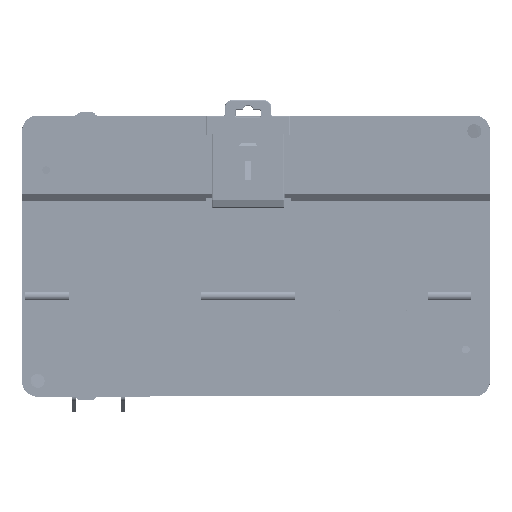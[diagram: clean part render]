
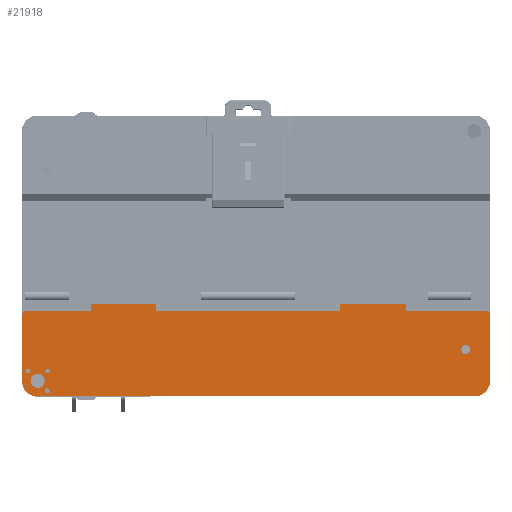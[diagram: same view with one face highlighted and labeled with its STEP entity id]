
A CAD part, front view. The second image highlights one B-rep face of the part: STEP entity #21918.
In plain terms, the highlighted planar face has unit normal (0, -1, 0).
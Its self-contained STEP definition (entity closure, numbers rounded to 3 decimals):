
#1597=DIRECTION('',(0.,0.,1.));
#1598=VECTOR('',#1597,21.25);
#1599=CARTESIAN_POINT('',(77.5,0.,-40.));
#1600=LINE('',#1599,#1598);
#1789=DIRECTION('',(-1.,0.,0.));
#1790=VECTOR('',#1789,26.);
#1791=CARTESIAN_POINT('',(76.5,0.,-17.75));
#1792=LINE('',#1791,#1790);
#1801=DIRECTION('',(-1.,0.,0.));
#1802=VECTOR('',#1801,59.);
#1803=CARTESIAN_POINT('',(29.5,0.,-17.75));
#1804=LINE('',#1803,#1802);
#1809=DIRECTION('',(-1.,0.,0.));
#1810=VECTOR('',#1809,21.);
#1811=CARTESIAN_POINT('',(-50.5,0.,-17.75));
#1812=LINE('',#1811,#1810);
#1837=CARTESIAN_POINT('',(50.,0.,-15.75));
#1838=DIRECTION('',(0.,1.,0.));
#1839=DIRECTION('',(0.,0.,1.));
#1840=AXIS2_PLACEMENT_3D('',#1837,#1838,#1839);
#1842=CARTESIAN_POINT('',(76.5,0.,-18.75));
#1843=DIRECTION('',(0.,1.,0.));
#1844=DIRECTION('',(0.,0.,1.));
#1845=AXIS2_PLACEMENT_3D('',#1842,#1843,#1844);
#1847=CARTESIAN_POINT('',(72.5,0.,-40.));
#1848=DIRECTION('',(0.,1.,0.));
#1849=DIRECTION('',(1.,0.,0.));
#1850=AXIS2_PLACEMENT_3D('',#1847,#1848,#1849);
#1852=CARTESIAN_POINT('',(-67.5,0.,-40.));
#1853=DIRECTION('',(0.,1.,0.));
#1854=DIRECTION('',(0.,0.,-1.));
#1855=AXIS2_PLACEMENT_3D('',#1852,#1853,#1854);
#1857=CARTESIAN_POINT('',(-71.5,0.,-18.75));
#1858=DIRECTION('',(0.,1.,0.));
#1859=DIRECTION('',(-1.,0.,0.));
#1860=AXIS2_PLACEMENT_3D('',#1857,#1858,#1859);
#1862=DIRECTION('',(0.,0.,1.));
#1863=VECTOR('',#1862,2.);
#1864=CARTESIAN_POINT('',(-50.5,0.,-17.75));
#1865=LINE('',#1864,#1863);
#1866=CARTESIAN_POINT('',(-50.,0.,-15.75));
#1867=DIRECTION('',(0.,1.,0.));
#1868=DIRECTION('',(-1.,0.,0.));
#1869=AXIS2_PLACEMENT_3D('',#1866,#1867,#1868);
#1871=DIRECTION('',(1.,0.,0.));
#1872=VECTOR('',#1871,20.);
#1873=CARTESIAN_POINT('',(-50.,0.,-15.25));
#1874=LINE('',#1873,#1872);
#1875=CARTESIAN_POINT('',(-30.,0.,-15.75));
#1876=DIRECTION('',(0.,1.,0.));
#1877=DIRECTION('',(0.,0.,1.));
#1878=AXIS2_PLACEMENT_3D('',#1875,#1876,#1877);
#1880=DIRECTION('',(0.,0.,1.));
#1881=VECTOR('',#1880,2.);
#1882=CARTESIAN_POINT('',(29.5,0.,-17.75));
#1883=LINE('',#1882,#1881);
#1884=CARTESIAN_POINT('',(30.,0.,-15.75));
#1885=DIRECTION('',(0.,1.,0.));
#1886=DIRECTION('',(-1.,0.,0.));
#1887=AXIS2_PLACEMENT_3D('',#1884,#1885,#1886);
#1889=CARTESIAN_POINT('',(-67.5,0.,-40.));
#1890=DIRECTION('',(0.,-1.,0.));
#1891=DIRECTION('',(1.,0.,0.));
#1892=AXIS2_PLACEMENT_3D('',#1889,#1890,#1891);
#1894=CARTESIAN_POINT('',(-67.5,0.,-40.));
#1895=DIRECTION('',(0.,-1.,0.));
#1896=DIRECTION('',(-1.,0.,0.));
#1897=AXIS2_PLACEMENT_3D('',#1894,#1895,#1896);
#1899=CARTESIAN_POINT('',(69.75,0.,-30.));
#1900=DIRECTION('',(0.,-1.,0.));
#1901=DIRECTION('',(1.,0.,0.));
#1902=AXIS2_PLACEMENT_3D('',#1899,#1900,#1901);
#1904=CARTESIAN_POINT('',(69.75,0.,-30.));
#1905=DIRECTION('',(0.,-1.,0.));
#1906=DIRECTION('',(-1.,0.,0.));
#1907=AXIS2_PLACEMENT_3D('',#1904,#1905,#1906);
#1909=CARTESIAN_POINT('',(-70.65,0.,-36.85));
#1910=DIRECTION('',(0.,-1.,0.));
#1911=DIRECTION('',(1.,0.,0.));
#1912=AXIS2_PLACEMENT_3D('',#1909,#1910,#1911);
#1914=CARTESIAN_POINT('',(-70.65,0.,-36.85));
#1915=DIRECTION('',(0.,-1.,0.));
#1916=DIRECTION('',(-1.,0.,0.));
#1917=AXIS2_PLACEMENT_3D('',#1914,#1915,#1916);
#1919=CARTESIAN_POINT('',(-64.35,0.,-36.85));
#1920=DIRECTION('',(0.,-1.,0.));
#1921=DIRECTION('',(1.,0.,0.));
#1922=AXIS2_PLACEMENT_3D('',#1919,#1920,#1921);
#1924=CARTESIAN_POINT('',(-64.35,0.,-36.85));
#1925=DIRECTION('',(0.,-1.,0.));
#1926=DIRECTION('',(-1.,0.,0.));
#1927=AXIS2_PLACEMENT_3D('',#1924,#1925,#1926);
#1929=CARTESIAN_POINT('',(-64.35,0.,-43.15));
#1930=DIRECTION('',(0.,-1.,0.));
#1931=DIRECTION('',(1.,0.,0.));
#1932=AXIS2_PLACEMENT_3D('',#1929,#1930,#1931);
#1934=CARTESIAN_POINT('',(-64.35,0.,-43.15));
#1935=DIRECTION('',(0.,-1.,0.));
#1936=DIRECTION('',(-1.,0.,0.));
#1937=AXIS2_PLACEMENT_3D('',#1934,#1935,#1936);
#1953=DIRECTION('',(-1.,0.,0.));
#1954=VECTOR('',#1953,20.);
#1955=CARTESIAN_POINT('',(50.,0.,-15.25));
#1956=LINE('',#1955,#1954);
#1995=DIRECTION('',(0.,0.,1.));
#1996=VECTOR('',#1995,2.);
#1997=CARTESIAN_POINT('',(50.5,0.,-17.75));
#1998=LINE('',#1997,#1996);
#2011=DIRECTION('',(1.,0.,0.));
#2012=VECTOR('',#2011,140.);
#2013=CARTESIAN_POINT('',(-67.5,0.,-45.));
#2014=LINE('',#2013,#2012);
#2398=DIRECTION('',(0.,0.,-1.));
#2399=VECTOR('',#2398,21.25);
#2400=CARTESIAN_POINT('',(-72.5,0.,-18.75));
#2401=LINE('',#2400,#2399);
#14513=DIRECTION('',(0.,0.,1.));
#14514=VECTOR('',#14513,2.);
#14515=CARTESIAN_POINT('',(-29.5,0.,-17.75));
#14516=LINE('',#14515,#14514);
#15224=CARTESIAN_POINT('',(50.,0.,-15.25));
#15225=CARTESIAN_POINT('',(50.5,0.,-15.75));
#15226=VERTEX_POINT('',#15224);
#15227=VERTEX_POINT('',#15225);
#15228=CARTESIAN_POINT('',(50.5,0.,-17.75));
#15229=VERTEX_POINT('',#15228);
#15230=CARTESIAN_POINT('',(76.5,0.,-17.75));
#15231=VERTEX_POINT('',#15230);
#15232=CARTESIAN_POINT('',(77.5,0.,-18.75));
#15233=VERTEX_POINT('',#15232);
#15234=CARTESIAN_POINT('',(77.5,0.,-40.));
#15235=VERTEX_POINT('',#15234);
#15236=CARTESIAN_POINT('',(72.5,0.,-45.));
#15237=VERTEX_POINT('',#15236);
#15238=CARTESIAN_POINT('',(-67.5,0.,-45.));
#15239=VERTEX_POINT('',#15238);
#15240=CARTESIAN_POINT('',(-72.5,0.,-40.));
#15241=VERTEX_POINT('',#15240);
#15242=CARTESIAN_POINT('',(-72.5,0.,-18.75));
#15243=VERTEX_POINT('',#15242);
#15244=CARTESIAN_POINT('',(-71.5,0.,-17.75));
#15245=VERTEX_POINT('',#15244);
#15246=CARTESIAN_POINT('',(-50.5,0.,-17.75));
#15247=VERTEX_POINT('',#15246);
#15248=CARTESIAN_POINT('',(-50.5,0.,-15.75));
#15249=VERTEX_POINT('',#15248);
#15250=CARTESIAN_POINT('',(-50.,0.,-15.25));
#15251=VERTEX_POINT('',#15250);
#15252=CARTESIAN_POINT('',(-30.,0.,-15.25));
#15253=VERTEX_POINT('',#15252);
#15254=CARTESIAN_POINT('',(-29.5,0.,-15.75));
#15255=VERTEX_POINT('',#15254);
#15256=CARTESIAN_POINT('',(-29.5,0.,-17.75));
#15257=VERTEX_POINT('',#15256);
#15258=CARTESIAN_POINT('',(29.5,0.,-17.75));
#15259=VERTEX_POINT('',#15258);
#15260=CARTESIAN_POINT('',(29.5,0.,-15.75));
#15261=VERTEX_POINT('',#15260);
#15262=CARTESIAN_POINT('',(30.,0.,-15.25));
#15263=VERTEX_POINT('',#15262);
#15264=CARTESIAN_POINT('',(-65.25,0.,-40.));
#15265=CARTESIAN_POINT('',(-69.75,0.,-40.));
#15266=VERTEX_POINT('',#15264);
#15267=VERTEX_POINT('',#15265);
#15268=CARTESIAN_POINT('',(71.25,0.,-30.));
#15269=CARTESIAN_POINT('',(68.25,0.,-30.));
#15270=VERTEX_POINT('',#15268);
#15271=VERTEX_POINT('',#15269);
#15272=CARTESIAN_POINT('',(-69.9,0.,-36.85));
#15273=CARTESIAN_POINT('',(-71.4,0.,-36.85));
#15274=VERTEX_POINT('',#15272);
#15275=VERTEX_POINT('',#15273);
#15276=CARTESIAN_POINT('',(-63.6,0.,-36.85));
#15277=CARTESIAN_POINT('',(-65.1,0.,-36.85));
#15278=VERTEX_POINT('',#15276);
#15279=VERTEX_POINT('',#15277);
#15280=CARTESIAN_POINT('',(-63.6,0.,-43.15));
#15281=CARTESIAN_POINT('',(-65.1,0.,-43.15));
#15282=VERTEX_POINT('',#15280);
#15283=VERTEX_POINT('',#15281);
#21846=CARTESIAN_POINT('',(0.,0.,0.));
#21847=DIRECTION('',(0.,1.,0.));
#21848=DIRECTION('',(1.,0.,0.));
#21849=AXIS2_PLACEMENT_3D('',#21846,#21847,#21848);
#21850=PLANE('',#21849);
#21852=ORIENTED_EDGE('',*,*,#21851,.T.);
#21854=ORIENTED_EDGE('',*,*,#21853,.F.);
#21855=ORIENTED_EDGE('',*,*,#21811,.F.);
#21856=ORIENTED_EDGE('',*,*,#21800,.T.);
#21857=ORIENTED_EDGE('',*,*,#21560,.F.);
#21859=ORIENTED_EDGE('',*,*,#21858,.T.);
#21861=ORIENTED_EDGE('',*,*,#21860,.F.);
#21863=ORIENTED_EDGE('',*,*,#21862,.T.);
#21865=ORIENTED_EDGE('',*,*,#21864,.F.);
#21867=ORIENTED_EDGE('',*,*,#21866,.T.);
#21868=ORIENTED_EDGE('',*,*,#21827,.F.);
#21870=ORIENTED_EDGE('',*,*,#21869,.T.);
#21872=ORIENTED_EDGE('',*,*,#21871,.T.);
#21874=ORIENTED_EDGE('',*,*,#21873,.T.);
#21876=ORIENTED_EDGE('',*,*,#21875,.T.);
#21878=ORIENTED_EDGE('',*,*,#21877,.F.);
#21879=ORIENTED_EDGE('',*,*,#21819,.F.);
#21881=ORIENTED_EDGE('',*,*,#21880,.T.);
#21883=ORIENTED_EDGE('',*,*,#21882,.T.);
#21885=ORIENTED_EDGE('',*,*,#21884,.F.);
#21886=EDGE_LOOP('',(#21852,#21854,#21855,#21856,#21857,#21859,#21861,#21863,
#21865,#21867,#21868,#21870,#21872,#21874,#21876,#21878,#21879,#21881,#21883,
#21885));
#21887=FACE_OUTER_BOUND('',#21886,.F.);
#21889=ORIENTED_EDGE('',*,*,#21888,.T.);
#21891=ORIENTED_EDGE('',*,*,#21890,.T.);
#21892=EDGE_LOOP('',(#21889,#21891));
#21893=FACE_BOUND('',#21892,.F.);
#21895=ORIENTED_EDGE('',*,*,#21894,.T.);
#21897=ORIENTED_EDGE('',*,*,#21896,.T.);
#21898=EDGE_LOOP('',(#21895,#21897));
#21899=FACE_BOUND('',#21898,.F.);
#21901=ORIENTED_EDGE('',*,*,#21900,.T.);
#21903=ORIENTED_EDGE('',*,*,#21902,.T.);
#21904=EDGE_LOOP('',(#21901,#21903));
#21905=FACE_BOUND('',#21904,.F.);
#21907=ORIENTED_EDGE('',*,*,#21906,.T.);
#21909=ORIENTED_EDGE('',*,*,#21908,.T.);
#21910=EDGE_LOOP('',(#21907,#21909));
#21911=FACE_BOUND('',#21910,.F.);
#21913=ORIENTED_EDGE('',*,*,#21912,.T.);
#21915=ORIENTED_EDGE('',*,*,#21914,.T.);
#21916=EDGE_LOOP('',(#21913,#21915));
#21917=FACE_BOUND('',#21916,.F.);
#21918=ADVANCED_FACE('',(#21887,#21893,#21899,#21905,#21911,#21917),#21850,.F.);
#1841=CIRCLE('',#1840,0.5);
#1846=CIRCLE('',#1845,1.);
#1851=CIRCLE('',#1850,5.);
#1856=CIRCLE('',#1855,5.);
#1861=CIRCLE('',#1860,1.);
#1870=CIRCLE('',#1869,0.5);
#1879=CIRCLE('',#1878,0.5);
#1888=CIRCLE('',#1887,0.5);
#1893=CIRCLE('',#1892,2.25);
#1898=CIRCLE('',#1897,2.25);
#1903=CIRCLE('',#1902,1.5);
#1908=CIRCLE('',#1907,1.5);
#1913=CIRCLE('',#1912,0.75);
#1918=CIRCLE('',#1917,0.75);
#1923=CIRCLE('',#1922,0.75);
#1928=CIRCLE('',#1927,0.75);
#1933=CIRCLE('',#1932,0.75);
#1938=CIRCLE('',#1937,0.75);
#21560=EDGE_CURVE('',#15235,#15233,#1600,.T.);
#21800=EDGE_CURVE('',#15231,#15233,#1846,.T.);
#21811=EDGE_CURVE('',#15231,#15229,#1792,.T.);
#21819=EDGE_CURVE('',#15259,#15257,#1804,.T.);
#21827=EDGE_CURVE('',#15247,#15245,#1812,.T.);
#21851=EDGE_CURVE('',#15226,#15227,#1841,.T.);
#21853=EDGE_CURVE('',#15229,#15227,#1998,.T.);
#21858=EDGE_CURVE('',#15235,#15237,#1851,.T.);
#21860=EDGE_CURVE('',#15239,#15237,#2014,.T.);
#21862=EDGE_CURVE('',#15239,#15241,#1856,.T.);
#21864=EDGE_CURVE('',#15243,#15241,#2401,.T.);
#21866=EDGE_CURVE('',#15243,#15245,#1861,.T.);
#21869=EDGE_CURVE('',#15247,#15249,#1865,.T.);
#21871=EDGE_CURVE('',#15249,#15251,#1870,.T.);
#21873=EDGE_CURVE('',#15251,#15253,#1874,.T.);
#21875=EDGE_CURVE('',#15253,#15255,#1879,.T.);
#21877=EDGE_CURVE('',#15257,#15255,#14516,.T.);
#21880=EDGE_CURVE('',#15259,#15261,#1883,.T.);
#21882=EDGE_CURVE('',#15261,#15263,#1888,.T.);
#21884=EDGE_CURVE('',#15226,#15263,#1956,.T.);
#21888=EDGE_CURVE('',#15266,#15267,#1893,.T.);
#21890=EDGE_CURVE('',#15267,#15266,#1898,.T.);
#21894=EDGE_CURVE('',#15270,#15271,#1903,.T.);
#21896=EDGE_CURVE('',#15271,#15270,#1908,.T.);
#21900=EDGE_CURVE('',#15274,#15275,#1913,.T.);
#21902=EDGE_CURVE('',#15275,#15274,#1918,.T.);
#21906=EDGE_CURVE('',#15278,#15279,#1923,.T.);
#21908=EDGE_CURVE('',#15279,#15278,#1928,.T.);
#21912=EDGE_CURVE('',#15282,#15283,#1933,.T.);
#21914=EDGE_CURVE('',#15283,#15282,#1938,.T.);
